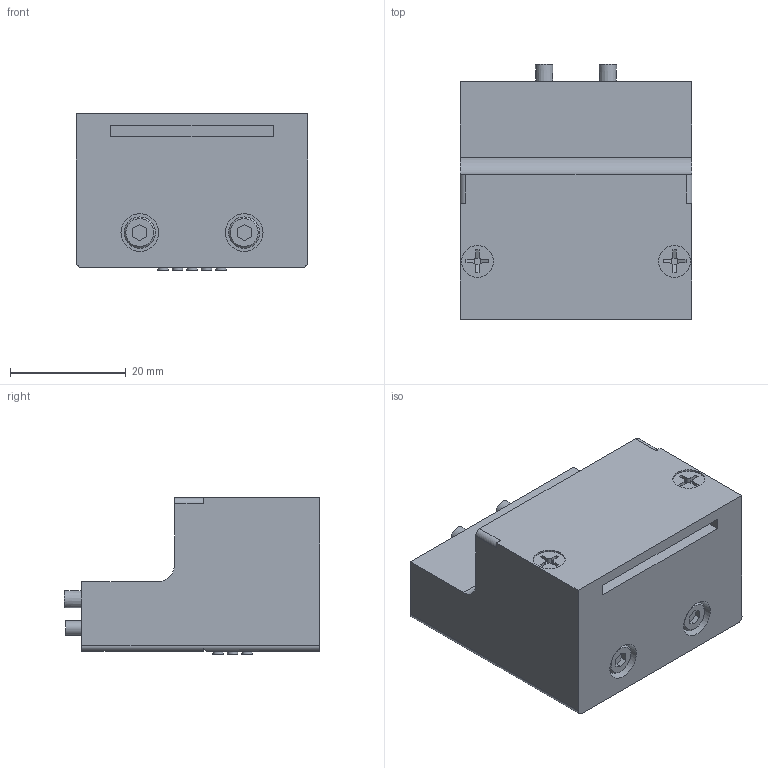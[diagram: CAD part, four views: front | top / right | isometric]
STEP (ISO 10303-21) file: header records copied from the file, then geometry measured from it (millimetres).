
FILE_DESCRIPTION(('STEP AP214'),'1');
FILE_NAME('KHG-12RS-D315_ver1.stp','2026-05-18T00:08:22',(' '),(' '),'Spatial InterOp 3D',' ',' ');
FILE_SCHEMA(('AUTOMOTIVE_DESIGN { 1 0 10303 214 1 1 1 1 }'));
Length unit declared in the file: millimetre
Products named in the file (1): KHG-12RS-D315_ver1
Bounding box: 40 x 44 x 27 mm (x, y, z)
Volume: 32630.4 mm3; surface area: 11004.5 mm2
Topology: 1 solids, 9 shells, 285 faces, 597 edges, 394 vertices
Faces by surface type: plane 189, cylinder 84, cone 12
Full cylindrical faces by diameter (mm): 1.02 x15, 1.8 x15, 2 x17, 2.15 x2, 2.5 x4, 3 x4, 3.5 x4, 5.41 x4, 5.5 x2, 6.5 x4
Entity records: 9284 total; most frequent: DIRECTION 1266, CARTESIAN_POINT 1146, ORIENTED_EDGE 980, AXIS2_PLACEMENT_3D 490, EDGE_CURVE 490, EDGE_LOOP 440, VERTEX_POINT 370, FACE_OUTER_BOUND 356
